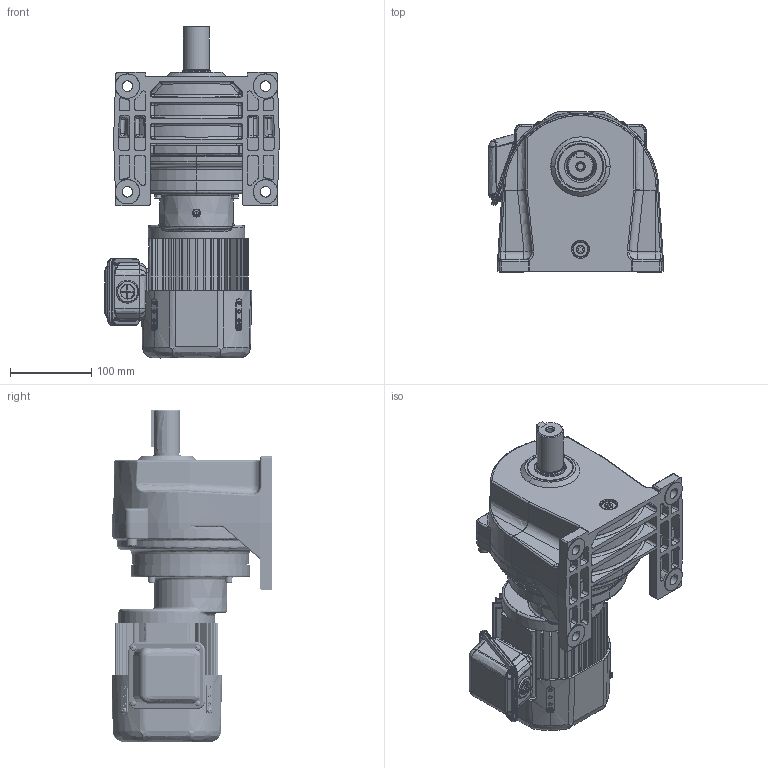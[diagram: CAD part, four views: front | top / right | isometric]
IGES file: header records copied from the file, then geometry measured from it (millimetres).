
Start section: SolidWorks IGES file using analytic representation for surfaces
Global section: file name: \\100.100.100.8\1_共有作業フォルダ\1-5_３Ｄデータ\solidworks\personal-folder\H.Nagayama\SGP1外形\P1(3D)\igs\TMLB2-01-(600~1200).IGS; native system: SolidWorks 2018; preprocessor: SolidWorks 2018; author: sigma-giken; date: 200612.114326; units: millimetre
Bounding box: 215.03 x 198.03 x 408.6 mm (x, y, z)
Surface area: 618295.6 mm2 (no closed solid volume)
Topology: 0 solids, 0 shells, 2073 faces, 26682 edges, 26644 vertices
Faces by surface type: bspline 1107, revolution 966
